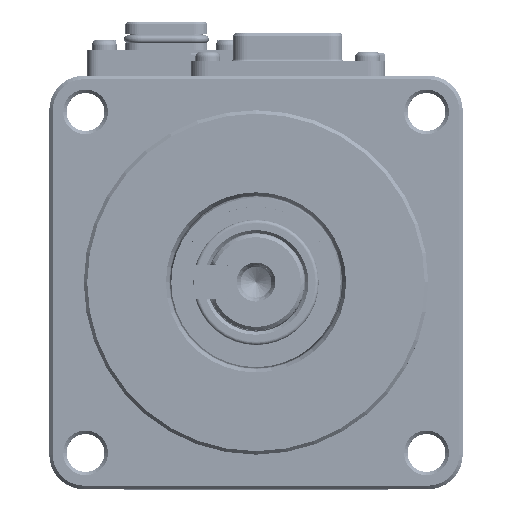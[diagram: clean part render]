
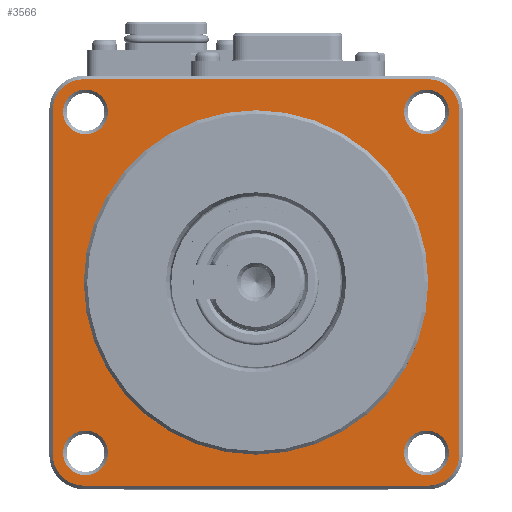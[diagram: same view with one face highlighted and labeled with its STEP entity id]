
A CAD part, top view. The second image highlights one B-rep face of the part: STEP entity #3566.
In plain terms, the highlighted planar face has unit normal (0, 0, 1).
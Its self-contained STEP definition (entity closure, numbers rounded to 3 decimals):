
#553=CARTESIAN_POINT('',(25.,-25.,13.7));
#554=DIRECTION('',(0.,0.,-1.));
#555=DIRECTION('',(1.,0.,0.));
#556=AXIS2_PLACEMENT_3D('',#553,#554,#555);
#558=DIRECTION('',(-1.,0.,0.));
#559=VECTOR('',#558,50.);
#560=CARTESIAN_POINT('',(25.,-29.5,13.7));
#561=LINE('',#560,#559);
#562=CARTESIAN_POINT('',(-25.,-25.,13.7));
#563=DIRECTION('',(0.,0.,-1.));
#564=DIRECTION('',(0.,-1.,0.));
#565=AXIS2_PLACEMENT_3D('',#562,#563,#564);
#567=DIRECTION('',(0.,1.,0.));
#568=VECTOR('',#567,50.);
#569=CARTESIAN_POINT('',(-29.5,-25.,13.7));
#570=LINE('',#569,#568);
#571=CARTESIAN_POINT('',(-25.,25.,13.7));
#572=DIRECTION('',(0.,0.,-1.));
#573=DIRECTION('',(-1.,0.,0.));
#574=AXIS2_PLACEMENT_3D('',#571,#572,#573);
#576=DIRECTION('',(1.,0.,0.));
#577=VECTOR('',#576,50.);
#578=CARTESIAN_POINT('',(-25.,29.5,13.7));
#579=LINE('',#578,#577);
#580=CARTESIAN_POINT('',(25.,25.,13.7));
#581=DIRECTION('',(0.,0.,-1.));
#582=DIRECTION('',(0.,1.,0.));
#583=AXIS2_PLACEMENT_3D('',#580,#581,#582);
#585=DIRECTION('',(0.,-1.,0.));
#586=VECTOR('',#585,50.);
#587=CARTESIAN_POINT('',(29.5,25.,13.7));
#588=LINE('',#587,#586);
#589=CARTESIAN_POINT('',(-24.749,24.749,13.7));
#590=DIRECTION('',(0.,0.,-1.));
#591=DIRECTION('',(1.,0.,0.));
#592=AXIS2_PLACEMENT_3D('',#589,#590,#591);
#594=CARTESIAN_POINT('',(-24.749,24.749,13.7));
#595=DIRECTION('',(0.,0.,-1.));
#596=DIRECTION('',(-1.,0.,0.));
#597=AXIS2_PLACEMENT_3D('',#594,#595,#596);
#599=CARTESIAN_POINT('',(24.749,24.749,13.7));
#600=DIRECTION('',(0.,0.,-1.));
#601=DIRECTION('',(0.,1.,0.));
#602=AXIS2_PLACEMENT_3D('',#599,#600,#601);
#604=CARTESIAN_POINT('',(24.749,24.749,13.7));
#605=DIRECTION('',(0.,0.,-1.));
#606=DIRECTION('',(0.,-1.,0.));
#607=AXIS2_PLACEMENT_3D('',#604,#605,#606);
#609=CARTESIAN_POINT('',(-24.749,-24.749,13.7));
#610=DIRECTION('',(0.,0.,-1.));
#611=DIRECTION('',(0.,1.,0.));
#612=AXIS2_PLACEMENT_3D('',#609,#610,#611);
#614=CARTESIAN_POINT('',(-24.749,-24.749,13.7));
#615=DIRECTION('',(0.,0.,-1.));
#616=DIRECTION('',(0.,-1.,0.));
#617=AXIS2_PLACEMENT_3D('',#614,#615,#616);
#619=CARTESIAN_POINT('',(24.749,-24.749,13.7));
#620=DIRECTION('',(0.,0.,-1.));
#621=DIRECTION('',(1.,0.,0.));
#622=AXIS2_PLACEMENT_3D('',#619,#620,#621);
#624=CARTESIAN_POINT('',(24.749,-24.749,13.7));
#625=DIRECTION('',(0.,0.,-1.));
#626=DIRECTION('',(-1.,0.,0.));
#627=AXIS2_PLACEMENT_3D('',#624,#625,#626);
#638=CARTESIAN_POINT('',(0.,0.,13.7));
#639=DIRECTION('',(0.,0.,-1.));
#640=DIRECTION('',(0.,1.,0.));
#641=AXIS2_PLACEMENT_3D('',#638,#639,#640);
#680=CARTESIAN_POINT('',(0.,0.,13.7));
#681=DIRECTION('',(0.,0.,1.));
#682=DIRECTION('',(0.,1.,0.));
#683=AXIS2_PLACEMENT_3D('',#680,#681,#682);
#2240=CARTESIAN_POINT('',(0.,25.,13.7));
#2241=CARTESIAN_POINT('',(0.,-25.,13.7));
#2242=VERTEX_POINT('',#2240);
#2243=VERTEX_POINT('',#2241);
#2690=CARTESIAN_POINT('',(29.5,-25.,13.7));
#2691=CARTESIAN_POINT('',(25.,-29.5,13.7));
#2692=VERTEX_POINT('',#2690);
#2693=VERTEX_POINT('',#2691);
#2696=CARTESIAN_POINT('',(-25.,-29.5,
13.7));
#2697=VERTEX_POINT('',#2696);
#2700=CARTESIAN_POINT('',(-29.5,-25.,13.7));
#2701=VERTEX_POINT('',#2700);
#2704=CARTESIAN_POINT('',(-29.5,25.,13.7));
#2705=VERTEX_POINT('',#2704);
#2708=CARTESIAN_POINT('',(-25.,29.5,13.7));
#2709=VERTEX_POINT('',#2708);
#2712=CARTESIAN_POINT('',(25.,29.5,13.7));
#2713=VERTEX_POINT('',#2712);
#2716=CARTESIAN_POINT('',(29.5,25.,13.7));
#2717=VERTEX_POINT('',#2716);
#2736=CARTESIAN_POINT('',(-21.499,24.749,13.7));
#2737=CARTESIAN_POINT('',(-27.999,24.749,13.7));
#2738=VERTEX_POINT('',#2736);
#2739=VERTEX_POINT('',#2737);
#2744=CARTESIAN_POINT('',(24.749,27.999,13.7));
#2745=CARTESIAN_POINT('',(24.749,21.499,13.7));
#2746=VERTEX_POINT('',#2744);
#2747=VERTEX_POINT('',#2745);
#2752=CARTESIAN_POINT('',(-24.749,-21.499,13.7));
#2753=CARTESIAN_POINT('',(-24.749,-27.999,13.7));
#2754=VERTEX_POINT('',#2752);
#2755=VERTEX_POINT('',#2753);
#2760=CARTESIAN_POINT('',(27.999,-24.749,13.7));
#2761=CARTESIAN_POINT('',(21.499,-24.749,13.7));
#2762=VERTEX_POINT('',#2760);
#2763=VERTEX_POINT('',#2761);
#3516=CARTESIAN_POINT('',(0.,0.,13.7));
#3517=DIRECTION('',(0.,0.,1.));
#3518=DIRECTION('',(0.,1.,0.));
#3519=AXIS2_PLACEMENT_3D('',#3516,#3517,#3518);
#3520=PLANE('',#3519);
#3522=ORIENTED_EDGE('',*,*,#3521,.T.);
#3523=ORIENTED_EDGE('',*,*,#3333,.T.);
#3524=ORIENTED_EDGE('',*,*,#3349,.T.);
#3526=ORIENTED_EDGE('',*,*,#3525,.T.);
#3528=ORIENTED_EDGE('',*,*,#3527,.T.);
#3530=ORIENTED_EDGE('',*,*,#3529,.T.);
#3532=ORIENTED_EDGE('',*,*,#3531,.T.);
#3534=ORIENTED_EDGE('',*,*,#3533,.T.);
#3535=EDGE_LOOP('',(#3522,#3523,#3524,#3526,#3528,#3530,#3532,#3534));
#3536=FACE_OUTER_BOUND('',#3535,.F.);
#3538=ORIENTED_EDGE('',*,*,#3537,.F.);
#3540=ORIENTED_EDGE('',*,*,#3539,.T.);
#3541=EDGE_LOOP('',(#3538,#3540));
#3542=FACE_BOUND('',#3541,.F.);
#3544=ORIENTED_EDGE('',*,*,#3543,.F.);
#3545=ORIENTED_EDGE('',*,*,#3506,.F.);
#3546=EDGE_LOOP('',(#3544,#3545));
#3547=FACE_BOUND('',#3546,.F.);
#3549=ORIENTED_EDGE('',*,*,#3548,.F.);
#3551=ORIENTED_EDGE('',*,*,#3550,.F.);
#3552=EDGE_LOOP('',(#3549,#3551));
#3553=FACE_BOUND('',#3552,.F.);
#3555=ORIENTED_EDGE('',*,*,#3554,.F.);
#3557=ORIENTED_EDGE('',*,*,#3556,.F.);
#3558=EDGE_LOOP('',(#3555,#3557));
#3559=FACE_BOUND('',#3558,.F.);
#3561=ORIENTED_EDGE('',*,*,#3560,.F.);
#3563=ORIENTED_EDGE('',*,*,#3562,.F.);
#3564=EDGE_LOOP('',(#3561,#3563));
#3565=FACE_BOUND('',#3564,.F.);
#3566=ADVANCED_FACE('',(#3536,#3542,#3547,#3553,#3559,#3565),#3520,.T.);
#557=CIRCLE('',#556,4.5);
#566=CIRCLE('',#565,4.5);
#575=CIRCLE('',#574,4.5);
#584=CIRCLE('',#583,4.5);
#593=CIRCLE('',#592,3.25);
#598=CIRCLE('',#597,3.25);
#603=CIRCLE('',#602,3.25);
#608=CIRCLE('',#607,3.25);
#613=CIRCLE('',#612,3.25);
#618=CIRCLE('',#617,3.25);
#623=CIRCLE('',#622,3.25);
#628=CIRCLE('',#627,3.25);
#642=CIRCLE('',#641,25.);
#684=CIRCLE('',#683,25.);
#3333=EDGE_CURVE('',#2693,#2697,#561,.T.);
#3349=EDGE_CURVE('',#2697,#2701,#566,.T.);
#3506=EDGE_CURVE('',#2739,#2738,#598,.T.);
#3521=EDGE_CURVE('',#2692,#2693,#557,.T.);
#3525=EDGE_CURVE('',#2701,#2705,#570,.T.);
#3527=EDGE_CURVE('',#2705,#2709,#575,.T.);
#3529=EDGE_CURVE('',#2709,#2713,#579,.T.);
#3531=EDGE_CURVE('',#2713,#2717,#584,.T.);
#3533=EDGE_CURVE('',#2717,#2692,#588,.T.);
#3537=EDGE_CURVE('',#2242,#2243,#642,.T.);
#3539=EDGE_CURVE('',#2242,#2243,#684,.T.);
#3543=EDGE_CURVE('',#2738,#2739,#593,.T.);
#3548=EDGE_CURVE('',#2746,#2747,#603,.T.);
#3550=EDGE_CURVE('',#2747,#2746,#608,.T.);
#3554=EDGE_CURVE('',#2754,#2755,#613,.T.);
#3556=EDGE_CURVE('',#2755,#2754,#618,.T.);
#3560=EDGE_CURVE('',#2762,#2763,#623,.T.);
#3562=EDGE_CURVE('',#2763,#2762,#628,.T.);
